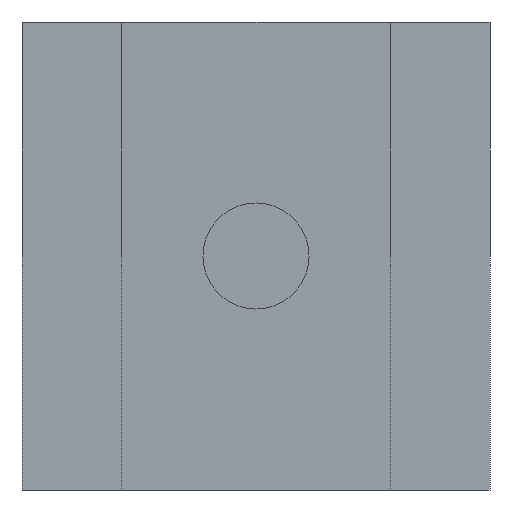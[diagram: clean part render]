
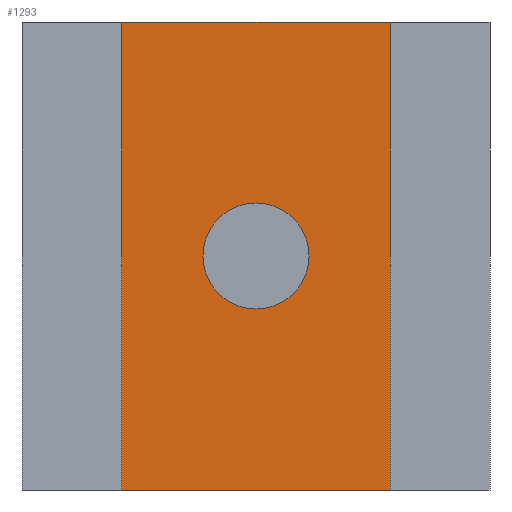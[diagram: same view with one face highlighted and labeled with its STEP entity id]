
A CAD part, front view. The second image highlights one B-rep face of the part: STEP entity #1293.
In plain terms, the highlighted planar face has unit normal (0, -1, 0).
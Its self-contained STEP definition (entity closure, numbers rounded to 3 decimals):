
#72 = PLANE('',#73);
#73 = AXIS2_PLACEMENT_3D('',#74,#75,#76);
#74 = CARTESIAN_POINT('',(-7.5,-55.,110.));
#75 = DIRECTION('',(0.,0.,1.));
#76 = DIRECTION('',(1.,0.,-0.));
#126 = PLANE('',#127);
#127 = AXIS2_PLACEMENT_3D('',#128,#129,#130);
#128 = CARTESIAN_POINT('',(-7.5,-55.,125.));
#129 = DIRECTION('',(0.,0.,1.));
#130 = DIRECTION('',(1.,0.,-0.));
#202 = PLANE('',#203);
#203 = AXIS2_PLACEMENT_3D('',#204,#205,#206);
#204 = CARTESIAN_POINT('',(-4.3,-68.,110.));
#205 = DIRECTION('',(1.,0.,-0.));
#206 = DIRECTION('',(0.,0.,1.));
#243 = VERTEX_POINT('',#244);
#244 = CARTESIAN_POINT('',(-4.3,-68.,125.));
#265 = EDGE_CURVE('',#243,#266,#268,.T.);
#266 = VERTEX_POINT('',#267);
#267 = CARTESIAN_POINT('',(4.3,-68.,125.));
#268 = SURFACE_CURVE('',#269,(#273,#280),.PCURVE_S1.);
#269 = LINE('',#270,#271);
#270 = CARTESIAN_POINT('',(-4.3,-68.,125.));
#271 = VECTOR('',#272,1.);
#272 = DIRECTION('',(1.,0.,-0.));
#273 = PCURVE('',#126,#274);
#274 = DEFINITIONAL_REPRESENTATION('',(#275),#279);
#275 = LINE('',#276,#277);
#276 = CARTESIAN_POINT('',(3.2,-13.));
#277 = VECTOR('',#278,1.);
#278 = DIRECTION('',(1.,0.));
#279 = ( GEOMETRIC_REPRESENTATION_CONTEXT(2) 
PARAMETRIC_REPRESENTATION_CONTEXT() REPRESENTATION_CONTEXT('2D SPACE',''
  ) );
#280 = PCURVE('',#281,#286);
#281 = PLANE('',#282);
#282 = AXIS2_PLACEMENT_3D('',#283,#284,#285);
#283 = CARTESIAN_POINT('',(-4.3,-68.,110.));
#284 = DIRECTION('',(-0.,1.,0.));
#285 = DIRECTION('',(0.,0.,1.));
#286 = DEFINITIONAL_REPRESENTATION('',(#287),#291);
#287 = LINE('',#288,#289);
#288 = CARTESIAN_POINT('',(15.,0.));
#289 = VECTOR('',#290,1.);
#290 = DIRECTION('',(0.,1.));
#291 = ( GEOMETRIC_REPRESENTATION_CONTEXT(2) 
PARAMETRIC_REPRESENTATION_CONTEXT() REPRESENTATION_CONTEXT('2D SPACE',''
  ) );
#309 = PLANE('',#310);
#310 = AXIS2_PLACEMENT_3D('',#311,#312,#313);
#311 = CARTESIAN_POINT('',(4.3,-68.,110.));
#312 = DIRECTION('',(1.,0.,-0.));
#313 = DIRECTION('',(0.,0.,1.));
#649 = VERTEX_POINT('',#650);
#650 = CARTESIAN_POINT('',(-4.3,-68.,110.));
#671 = EDGE_CURVE('',#649,#672,#674,.T.);
#672 = VERTEX_POINT('',#673);
#673 = CARTESIAN_POINT('',(4.3,-68.,110.));
#674 = SURFACE_CURVE('',#675,(#679,#686),.PCURVE_S1.);
#675 = LINE('',#676,#677);
#676 = CARTESIAN_POINT('',(-4.3,-68.,110.));
#677 = VECTOR('',#678,1.);
#678 = DIRECTION('',(1.,0.,-0.));
#679 = PCURVE('',#72,#680);
#680 = DEFINITIONAL_REPRESENTATION('',(#681),#685);
#681 = LINE('',#682,#683);
#682 = CARTESIAN_POINT('',(3.2,-13.));
#683 = VECTOR('',#684,1.);
#684 = DIRECTION('',(1.,0.));
#685 = ( GEOMETRIC_REPRESENTATION_CONTEXT(2) 
PARAMETRIC_REPRESENTATION_CONTEXT() REPRESENTATION_CONTEXT('2D SPACE',''
  ) );
#686 = PCURVE('',#281,#687);
#687 = DEFINITIONAL_REPRESENTATION('',(#688),#692);
#688 = LINE('',#689,#690);
#689 = CARTESIAN_POINT('',(0.,0.));
#690 = VECTOR('',#691,1.);
#691 = DIRECTION('',(0.,1.));
#692 = ( GEOMETRIC_REPRESENTATION_CONTEXT(2) 
PARAMETRIC_REPRESENTATION_CONTEXT() REPRESENTATION_CONTEXT('2D SPACE',''
  ) );
#942 = EDGE_CURVE('',#649,#243,#943,.T.);
#943 = SURFACE_CURVE('',#944,(#948,#955),.PCURVE_S1.);
#944 = LINE('',#945,#946);
#945 = CARTESIAN_POINT('',(-4.3,-68.,110.));
#946 = VECTOR('',#947,1.);
#947 = DIRECTION('',(0.,0.,1.));
#948 = PCURVE('',#202,#949);
#949 = DEFINITIONAL_REPRESENTATION('',(#950),#954);
#950 = LINE('',#951,#952);
#951 = CARTESIAN_POINT('',(0.,0.));
#952 = VECTOR('',#953,1.);
#953 = DIRECTION('',(1.,0.));
#954 = ( GEOMETRIC_REPRESENTATION_CONTEXT(2) 
PARAMETRIC_REPRESENTATION_CONTEXT() REPRESENTATION_CONTEXT('2D SPACE',''
  ) );
#955 = PCURVE('',#281,#956);
#956 = DEFINITIONAL_REPRESENTATION('',(#957),#961);
#957 = LINE('',#958,#959);
#958 = CARTESIAN_POINT('',(0.,0.));
#959 = VECTOR('',#960,1.);
#960 = DIRECTION('',(1.,0.));
#961 = ( GEOMETRIC_REPRESENTATION_CONTEXT(2) 
PARAMETRIC_REPRESENTATION_CONTEXT() REPRESENTATION_CONTEXT('2D SPACE',''
  ) );
#1270 = EDGE_CURVE('',#672,#266,#1271,.T.);
#1271 = SURFACE_CURVE('',#1272,(#1276,#1283),.PCURVE_S1.);
#1272 = LINE('',#1273,#1274);
#1273 = CARTESIAN_POINT('',(4.3,-68.,110.));
#1274 = VECTOR('',#1275,1.);
#1275 = DIRECTION('',(0.,0.,1.));
#1276 = PCURVE('',#309,#1277);
#1277 = DEFINITIONAL_REPRESENTATION('',(#1278),#1282);
#1278 = LINE('',#1279,#1280);
#1279 = CARTESIAN_POINT('',(0.,0.));
#1280 = VECTOR('',#1281,1.);
#1281 = DIRECTION('',(1.,0.));
#1282 = ( GEOMETRIC_REPRESENTATION_CONTEXT(2) 
PARAMETRIC_REPRESENTATION_CONTEXT() REPRESENTATION_CONTEXT('2D SPACE',''
  ) );
#1283 = PCURVE('',#281,#1284);
#1284 = DEFINITIONAL_REPRESENTATION('',(#1285),#1289);
#1285 = LINE('',#1286,#1287);
#1286 = CARTESIAN_POINT('',(0.,8.6));
#1287 = VECTOR('',#1288,1.);
#1288 = DIRECTION('',(1.,0.));
#1289 = ( GEOMETRIC_REPRESENTATION_CONTEXT(2) 
PARAMETRIC_REPRESENTATION_CONTEXT() REPRESENTATION_CONTEXT('2D SPACE',''
  ) );
#1293 = ADVANCED_FACE('',(#1294,#1300),#281,.F.);
#1294 = FACE_BOUND('',#1295,.F.);
#1295 = EDGE_LOOP('',(#1296,#1297,#1298,#1299));
#1296 = ORIENTED_EDGE('',*,*,#671,.F.);
#1297 = ORIENTED_EDGE('',*,*,#942,.T.);
#1298 = ORIENTED_EDGE('',*,*,#265,.T.);
#1299 = ORIENTED_EDGE('',*,*,#1270,.F.);
#1300 = FACE_BOUND('',#1301,.F.);
#1301 = EDGE_LOOP('',(#1302));
#1302 = ORIENTED_EDGE('',*,*,#1303,.T.);
#1303 = EDGE_CURVE('',#1304,#1304,#1306,.T.);
#1304 = VERTEX_POINT('',#1305);
#1305 = CARTESIAN_POINT('',(1.7,-68.,117.5));
#1306 = SURFACE_CURVE('',#1307,(#1312,#1323),.PCURVE_S1.);
#1307 = CIRCLE('',#1308,1.7);
#1308 = AXIS2_PLACEMENT_3D('',#1309,#1310,#1311);
#1309 = CARTESIAN_POINT('',(0.,-68.,117.5));
#1310 = DIRECTION('',(0.,-1.,0.));
#1311 = DIRECTION('',(1.,0.,0.));
#1312 = PCURVE('',#281,#1313);
#1313 = DEFINITIONAL_REPRESENTATION('',(#1314),#1322);
#1314 = ( BOUNDED_CURVE() B_SPLINE_CURVE(2,(#1315,#1316,#1317,#1318,
#1319,#1320,#1321),.UNSPECIFIED.,.T.,.F.) B_SPLINE_CURVE_WITH_KNOTS((1,2
    ,2,2,2,1),(-2.094,0.,2.094,4.189,
6.283,8.378),.UNSPECIFIED.) CURVE() 
GEOMETRIC_REPRESENTATION_ITEM() RATIONAL_B_SPLINE_CURVE((1.,0.5,1.,0.5,
1.,0.5,1.)) REPRESENTATION_ITEM('') );
#1315 = CARTESIAN_POINT('',(7.5,6.));
#1316 = CARTESIAN_POINT('',(10.444,6.));
#1317 = CARTESIAN_POINT('',(8.972,3.45));
#1318 = CARTESIAN_POINT('',(7.5,0.9));
#1319 = CARTESIAN_POINT('',(6.028,3.45));
#1320 = CARTESIAN_POINT('',(4.556,6.));
#1321 = CARTESIAN_POINT('',(7.5,6.));
#1322 = ( GEOMETRIC_REPRESENTATION_CONTEXT(2) 
PARAMETRIC_REPRESENTATION_CONTEXT() REPRESENTATION_CONTEXT('2D SPACE',''
  ) );
#1323 = PCURVE('',#1324,#1329);
#1324 = CYLINDRICAL_SURFACE('',#1325,1.7);
#1325 = AXIS2_PLACEMENT_3D('',#1326,#1327,#1328);
#1326 = CARTESIAN_POINT('',(0.,-53.5,117.5));
#1327 = DIRECTION('',(0.,-1.,0.));
#1328 = DIRECTION('',(1.,0.,0.));
#1329 = DEFINITIONAL_REPRESENTATION('',(#1330),#1334);
#1330 = LINE('',#1331,#1332);
#1331 = CARTESIAN_POINT('',(0.,14.5));
#1332 = VECTOR('',#1333,1.);
#1333 = DIRECTION('',(1.,0.));
#1334 = ( GEOMETRIC_REPRESENTATION_CONTEXT(2) 
PARAMETRIC_REPRESENTATION_CONTEXT() REPRESENTATION_CONTEXT('2D SPACE',''
  ) );
